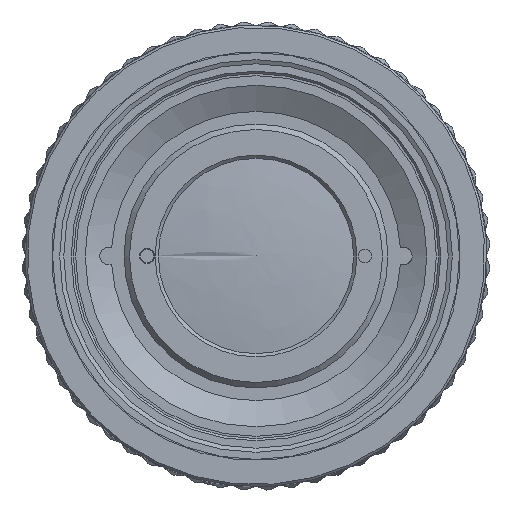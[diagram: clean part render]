
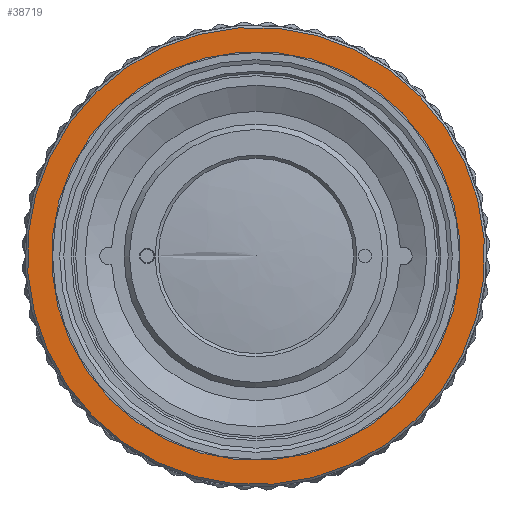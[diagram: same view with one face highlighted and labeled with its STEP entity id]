
A CAD part, left-side view. The second image highlights one B-rep face of the part: STEP entity #38719.
In plain terms, the highlighted planar face has unit normal (-1, 0, 0).
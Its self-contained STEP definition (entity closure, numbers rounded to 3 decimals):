
#38719=ADVANCED_FACE('',(#44451,#48263),#42540,.T.);
#42540=PLANE('',#91262);
#44451=FACE_OUTER_BOUND('',#48493,.T.);
#48263=FACE_BOUND('',#48494,.T.);
#48493=EDGE_LOOP('',(#52487));
#48494=EDGE_LOOP('',(#52488));
#52487=ORIENTED_EDGE('',*,*,#78712,.T.);
#52488=ORIENTED_EDGE('',*,*,#78710,.F.);
#72416=VERTEX_POINT('',#113114);
#72418=VERTEX_POINT('',#113119);
#78710=EDGE_CURVE('',#72416,#72416,#88686,.T.);
#78712=EDGE_CURVE('',#72418,#72418,#88688,.T.);
#88686=CIRCLE('',#91258,18.6);
#88688=CIRCLE('',#91261,20.8);
#91258=AXIS2_PLACEMENT_3D('',#113113,#97735,#97736);
#91261=AXIS2_PLACEMENT_3D('',#113118,#97741,#97742);
#91262=AXIS2_PLACEMENT_3D('',#113120,#97743,#97744);
#97735=DIRECTION('',(-1.,0.,0.));
#97736=DIRECTION('',(0.,0.963,0.269));
#97741=DIRECTION('',(-1.,0.,0.));
#97742=DIRECTION('',(0.,0.963,0.269));
#97743=DIRECTION('',(-1.,0.,0.));
#97744=DIRECTION('',(0.,0.963,0.269));
#113113=CARTESIAN_POINT('',(-69.269,0.,0.));
#113114=CARTESIAN_POINT('',(-69.269,17.915,5.002));
#113118=CARTESIAN_POINT('',(-69.269,0.,0.));
#113119=CARTESIAN_POINT('',(-69.269,20.034,5.594));
#113120=CARTESIAN_POINT('',(-69.269,5.002,-17.915));
